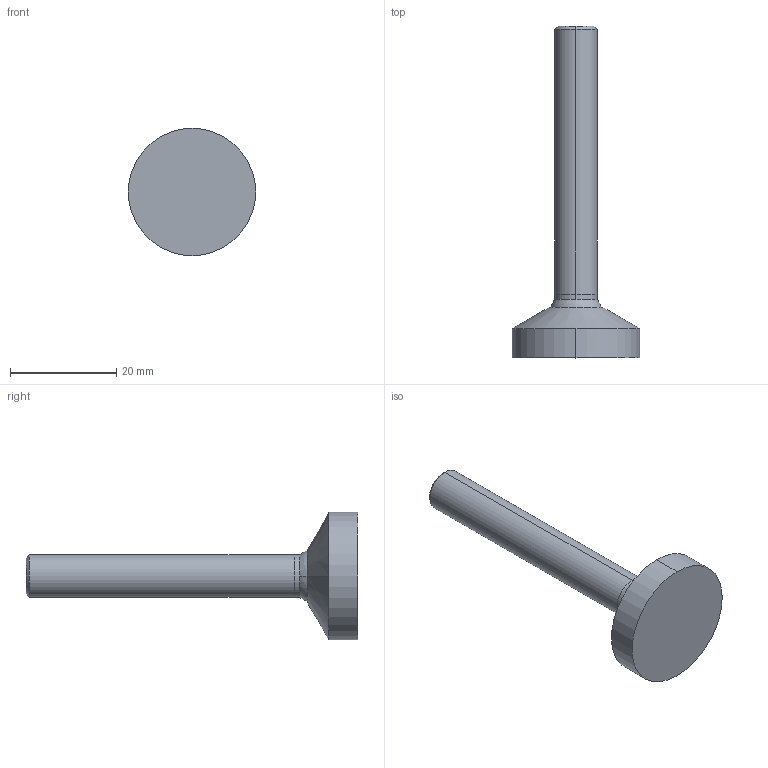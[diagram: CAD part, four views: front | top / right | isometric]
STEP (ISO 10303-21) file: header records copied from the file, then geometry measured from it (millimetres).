
FILE_DESCRIPTION (( 'STEP AP203' ), '1' );
FILE_NAME ('Default.step', '2011-08-08T09:39:45', ( 'Wixroyd' ), ( 'Wixroyd' ), 'SwSTEP 2.0', 'SolidWorks 2009', '' );
FILE_SCHEMA (( 'CONFIG_CONTROL_DESIGN' ));
Length unit declared in the file: millimetre
Products named in the file (3): Default; Part1; Part2
Assembly tree (2 placements, depth 2):
  Default
    Part2
    Part1
Bounding box: 24 x 62.5 x 24 mm (x, y, z)
Volume: 6071 mm3; surface area: 3153.5 mm2
Topology: 2 solids, 2 shells, 32 faces, 80 edges, 49 vertices
Faces by surface type: plane 16, cone 6, cylinder 6, sphere 4
Entity records: 1183 total; most frequent: DIRECTION 176, CARTESIAN_POINT 150, ORIENTED_EDGE 138, AXIS2_PLACEMENT_3D 70, EDGE_CURVE 69, VERTEX_POINT 44, VECTOR 36, LINE 36
